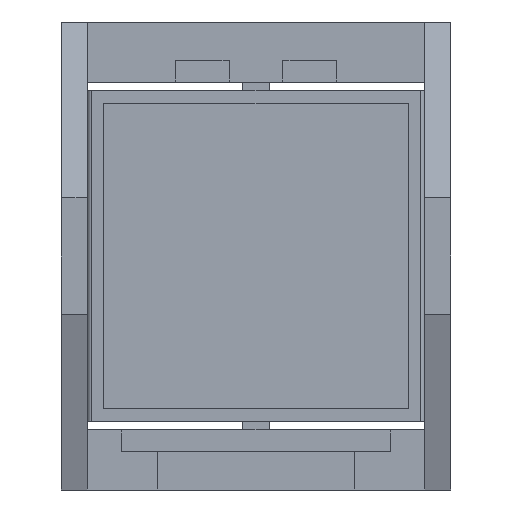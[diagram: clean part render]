
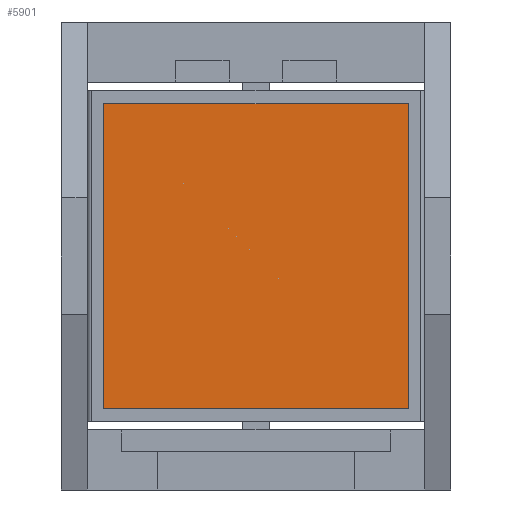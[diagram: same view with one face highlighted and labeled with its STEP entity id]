
A CAD part, front view. The second image highlights one B-rep face of the part: STEP entity #5901.
In plain terms, the highlighted planar face has unit normal (0, -1, 0).
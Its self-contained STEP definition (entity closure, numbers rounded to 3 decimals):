
#18 = VERTEX_POINT ( 'NONE', #4274 ) ;
#22 = CARTESIAN_POINT ( 'NONE',  ( -9.011, -2.481, 10.369 ) ) ;
#151 = ORIENTED_EDGE ( 'NONE', *, *, #5639, .F. ) ;
#421 = VERTEX_POINT ( 'NONE', #6099 ) ;
#997 = VECTOR ( 'NONE', #6200, 1000. ) ;
#1051 = LINE ( 'NONE', #4570, #6253 ) ;
#1381 = DIRECTION ( 'NONE',  ( 0., 1., 0. ) ) ;
#1462 = CARTESIAN_POINT ( 'NONE',  ( 7.989, -2.481, -6.631 ) ) ;
#1949 = CARTESIAN_POINT ( 'NONE',  ( -9.011, -2.481, 10.369 ) ) ;
#2122 = CARTESIAN_POINT ( 'NONE',  ( 7.989, -2.481, -6.631 ) ) ;
#2229 = EDGE_CURVE ( 'NONE', #4112, #421, #2332, .T. ) ;
#2332 = LINE ( 'NONE', #4360, #5373 ) ;
#2649 = ORIENTED_EDGE ( 'NONE', *, *, #2229, .F. ) ;
#2673 = ORIENTED_EDGE ( 'NONE', *, *, #6213, .F. ) ;
#3058 = LINE ( 'NONE', #2122, #997 ) ;
#3069 = DIRECTION ( 'NONE',  ( 1., 0., 0. ) ) ;
#3144 = ORIENTED_EDGE ( 'NONE', *, *, #5400, .F. ) ;
#3482 = FACE_OUTER_BOUND ( 'NONE', #5826, .T. ) ;
#3573 = VERTEX_POINT ( 'NONE', #1462 ) ;
#3977 = DIRECTION ( 'NONE',  ( 0., 0., 1. ) ) ;
#4112 = VERTEX_POINT ( 'NONE', #5836 ) ;
#4274 = CARTESIAN_POINT ( 'NONE',  ( 7.989, -2.481, 10.369 ) ) ;
#4360 = CARTESIAN_POINT ( 'NONE',  ( -9.011, -2.481, -6.631 ) ) ;
#4395 = AXIS2_PLACEMENT_3D ( 'NONE', #1949, #1381, #3977 ) ;
#4478 = PLANE ( 'NONE',  #4395 ) ;
#4570 = CARTESIAN_POINT ( 'NONE',  ( -9.011, -2.481, -6.631 ) ) ;
#4571 = LINE ( 'NONE', #22, #4823 ) ;
#4823 = VECTOR ( 'NONE', #3069, 1000. ) ;
#5373 = VECTOR ( 'NONE', #6343, 1000. ) ;
#5400 = EDGE_CURVE ( 'NONE', #3573, #4112, #1051, .T. ) ;
#5639 = EDGE_CURVE ( 'NONE', #18, #3573, #3058, .T. ) ;
#5826 = EDGE_LOOP ( 'NONE', ( #2649, #3144, #151, #2673 ) ) ;
#5836 = CARTESIAN_POINT ( 'NONE',  ( -9.011, -2.481, -6.631 ) ) ;
#5901 = ADVANCED_FACE ( 'NONE', ( #3482 ), #4478, .F. ) ;
#6099 = CARTESIAN_POINT ( 'NONE',  ( -9.011, -2.481, 10.369 ) ) ;
#6121 = DIRECTION ( 'NONE',  ( -1., 0., 0. ) ) ;
#6200 = DIRECTION ( 'NONE',  ( 0., 0., -1. ) ) ;
#6213 = EDGE_CURVE ( 'NONE', #421, #18, #4571, .T. ) ;
#6253 = VECTOR ( 'NONE', #6121, 1000. ) ;
#6343 = DIRECTION ( 'NONE',  ( 0., 0., 1. ) ) ;
